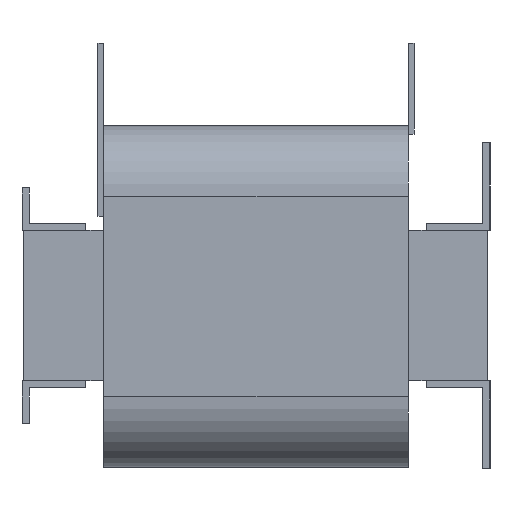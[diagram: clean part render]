
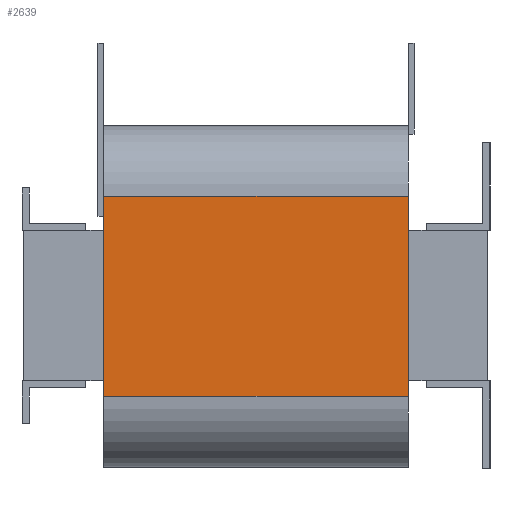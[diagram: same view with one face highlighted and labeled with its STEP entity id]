
A CAD part, left-side view. The second image highlights one B-rep face of the part: STEP entity #2639.
In plain terms, the highlighted planar face has unit normal (-1, 0, 0).
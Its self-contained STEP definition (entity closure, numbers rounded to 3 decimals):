
#114=PLANE('',#2843);
#243=FACE_OUTER_BOUND('',#393,.T.);
#393=EDGE_LOOP('',(#2263,#2264,#2265,#2266));
#670=LINE('',#4142,#996);
#689=LINE('',#4192,#1015);
#690=LINE('',#4195,#1016);
#691=LINE('',#4196,#1017);
#996=VECTOR('',#3383,10.);
#1015=VECTOR('',#3428,10.);
#1016=VECTOR('',#3431,10.);
#1017=VECTOR('',#3432,10.);
#1325=VERTEX_POINT('',#4139);
#1326=VERTEX_POINT('',#4141);
#1344=VERTEX_POINT('',#4190);
#1345=VERTEX_POINT('',#4194);
#1652=EDGE_CURVE('',#1325,#1326,#670,.T.);
#1678=EDGE_CURVE('',#1344,#1325,#689,.T.);
#1679=EDGE_CURVE('',#1344,#1345,#690,.T.);
#1680=EDGE_CURVE('',#1326,#1345,#691,.T.);
#2263=ORIENTED_EDGE('',*,*,#1678,.F.);
#2264=ORIENTED_EDGE('',*,*,#1679,.T.);
#2265=ORIENTED_EDGE('',*,*,#1680,.F.);
#2266=ORIENTED_EDGE('',*,*,#1652,.F.);
#2639=ADVANCED_FACE('',(#243),#114,.T.);
#2843=AXIS2_PLACEMENT_3D('',#4193,#3429,#3430);
#3383=DIRECTION('',(0.,0.,1.));
#3428=DIRECTION('',(0.,1.,0.));
#3429=DIRECTION('center_axis',(-1.,0.,0.));
#3430=DIRECTION('ref_axis',(0.,0.,1.));
#3431=DIRECTION('',(0.,0.,1.));
#3432=DIRECTION('',(0.,-1.,0.));
#4139=CARTESIAN_POINT('',(-286.,272.5,-64.));
#4141=CARTESIAN_POINT('',(-286.,272.5,77.));
#4142=CARTESIAN_POINT('',(-286.,272.5,-114.));
#4190=CARTESIAN_POINT('',(-286.,57.5,-64.));
#4192=CARTESIAN_POINT('',(-286.,57.5,-64.));
#4193=CARTESIAN_POINT('Origin',(-286.,57.5,-114.));
#4194=CARTESIAN_POINT('',(-286.,57.5,77.));
#4195=CARTESIAN_POINT('',(-286.,57.5,-114.));
#4196=CARTESIAN_POINT('',(-286.,57.5,77.));
